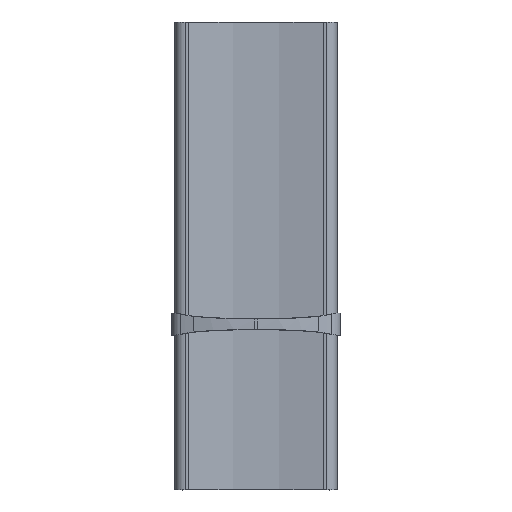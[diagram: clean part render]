
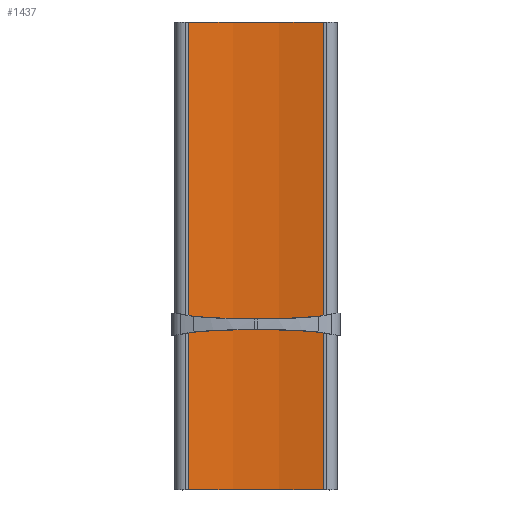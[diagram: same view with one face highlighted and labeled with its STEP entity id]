
A CAD part, top view. The second image highlights one B-rep face of the part: STEP entity #1437.
In plain terms, the highlighted cylindrical face has radius 899.205 mm (diameter 1798.41 mm), a partial arc.
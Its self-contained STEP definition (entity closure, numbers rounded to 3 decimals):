
#282 = DIRECTION ( 'NONE',  ( 0., 0., 1. ) ) ;
#322 = CARTESIAN_POINT ( 'NONE',  ( 0., 1500., -906.705 ) ) ;
#810 = DIRECTION ( 'NONE',  ( 0., -1., 0. ) ) ;
#865 = CARTESIAN_POINT ( 'NONE',  ( 0., 0., -906.705 ) ) ;
#986 = DIRECTION ( 'NONE',  ( 0., 0., 1. ) ) ;
#1228 = VERTEX_POINT ( 'NONE', #3835 ) ;
#1437 = ADVANCED_FACE ( 'NONE', ( #7402 ), #6790, .F. ) ;
#1500 = CARTESIAN_POINT ( 'NONE',  ( 0., 1500., -906.705 ) ) ;
#1524 = VECTOR ( 'NONE', #1974, 1000. ) ;
#1652 = VECTOR ( 'NONE', #3898, 1000. ) ;
#1758 = AXIS2_PLACEMENT_3D ( 'NONE', #322, #6256, #282 ) ;
#1841 = VERTEX_POINT ( 'NONE', #2366 ) ;
#1974 = DIRECTION ( 'NONE',  ( 0., -1., 0. ) ) ;
#2176 = CIRCLE ( 'NONE', #1758, 899.205 ) ;
#2205 = DIRECTION ( 'NONE',  ( 0., -1., 0. ) ) ;
#2366 = CARTESIAN_POINT ( 'NONE',  ( -216.57, 1500., -33.97 ) ) ;
#2454 = CIRCLE ( 'NONE', #4002, 899.205 ) ;
#2551 = VERTEX_POINT ( 'NONE', #4929 ) ;
#2768 = LINE ( 'NONE', #3334, #1524 ) ;
#3181 = ORIENTED_EDGE ( 'NONE', *, *, #6332, .T. ) ;
#3334 = CARTESIAN_POINT ( 'NONE',  ( -216.57, 1500., -33.97 ) ) ;
#3399 = CARTESIAN_POINT ( 'NONE',  ( -216.57, 0., -33.97 ) ) ;
#3469 = EDGE_LOOP ( 'NONE', ( #3181, #3855, #6861, #3531 ) ) ;
#3477 = DIRECTION ( 'NONE',  ( 0., 0., -1. ) ) ;
#3531 = ORIENTED_EDGE ( 'NONE', *, *, #5435, .T. ) ;
#3835 = CARTESIAN_POINT ( 'NONE',  ( 216.57, 0., -33.97 ) ) ;
#3855 = ORIENTED_EDGE ( 'NONE', *, *, #4913, .F. ) ;
#3898 = DIRECTION ( 'NONE',  ( 0., -1., 0. ) ) ;
#4002 = AXIS2_PLACEMENT_3D ( 'NONE', #865, #2205, #986 ) ;
#4728 = LINE ( 'NONE', #7380, #1652 ) ;
#4913 = EDGE_CURVE ( 'NONE', #1841, #6235, #2768, .T. ) ;
#4929 = CARTESIAN_POINT ( 'NONE',  ( 216.57, 1500., -33.97 ) ) ;
#5435 = EDGE_CURVE ( 'NONE', #2551, #1228, #4728, .T. ) ;
#6235 = VERTEX_POINT ( 'NONE', #3399 ) ;
#6256 = DIRECTION ( 'NONE',  ( 0., -1., 0. ) ) ;
#6332 = EDGE_CURVE ( 'NONE', #1228, #6235, #2454, .T. ) ;
#6790 = CYLINDRICAL_SURFACE ( 'NONE', #8126, 899.205 ) ;
#6861 = ORIENTED_EDGE ( 'NONE', *, *, #6893, .F. ) ;
#6893 = EDGE_CURVE ( 'NONE', #2551, #1841, #2176, .T. ) ;
#7380 = CARTESIAN_POINT ( 'NONE',  ( 216.57, 1500., -33.97 ) ) ;
#7402 = FACE_OUTER_BOUND ( 'NONE', #3469, .T. ) ;
#8126 = AXIS2_PLACEMENT_3D ( 'NONE', #1500, #810, #3477 ) ;
